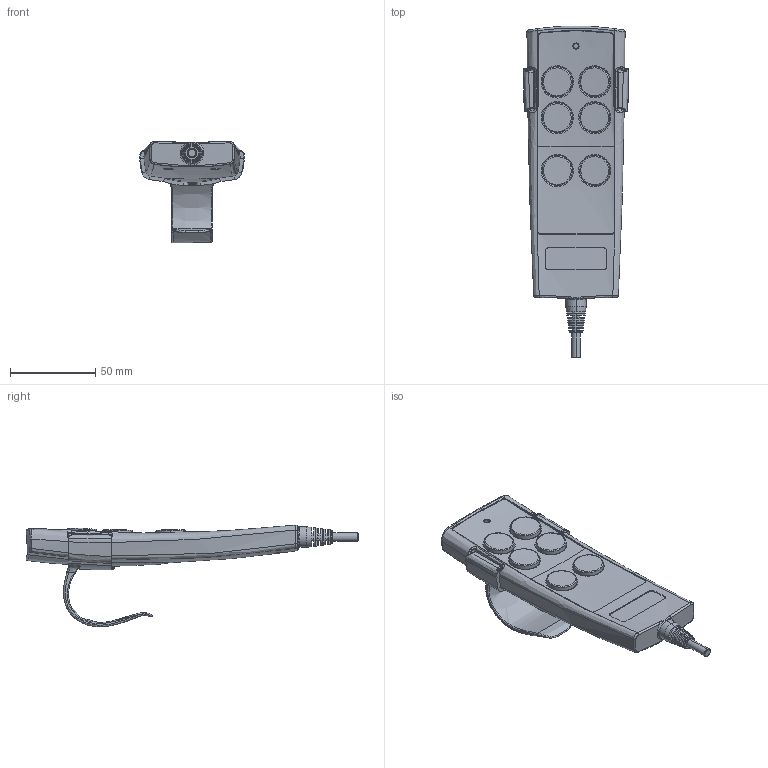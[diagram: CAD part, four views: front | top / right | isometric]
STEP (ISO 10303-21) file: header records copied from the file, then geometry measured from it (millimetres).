
FILE_DESCRIPTION (( 'STEP AP203' ), '1' );
FILE_NAME ('TH7（橡膠按鍵）.STEP', '2014-01-16T03:00:13', ( 'stanley' ), ( '' ), 'SwSTEP 2.0', 'SolidWorks 2010', '' );
FILE_SCHEMA (( 'CONFIG_CONTROL_DESIGN' ));
Length unit declared in the file: millimetre
Products named in the file (1): TH7（橡膠按鍵）
Bounding box: 61.55 x 194.6 x 59.61 mm (x, y, z)
Volume: 146199.2 mm3; surface area: 38942 mm2
Topology: 1 solids, 14 shells, 595 faces, 1479 edges, 924 vertices
Faces by surface type: bspline 285, plane 141, cylinder 113, torus 50, cone 6
Entity records: 72068 total; most frequent: CARTESIAN_POINT 60393, ORIENTED_EDGE 2942, EDGE_CURVE 1471, DIRECTION 1466, VERTEX_POINT 924, B_SPLINE_CURVE_WITH_KNOTS 902, EDGE_LOOP 619, ADVANCED_FACE 595
